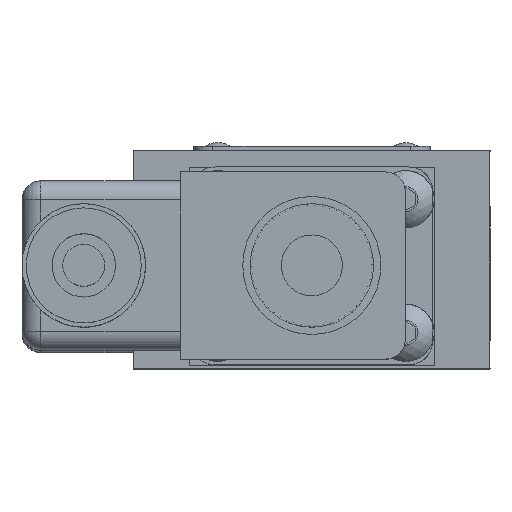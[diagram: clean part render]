
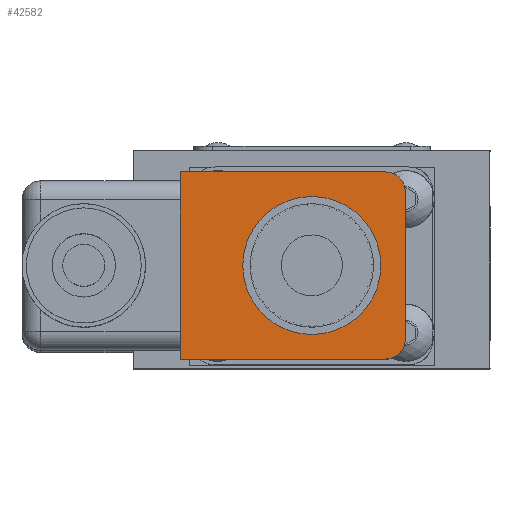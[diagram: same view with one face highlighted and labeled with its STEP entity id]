
A CAD part, top view. The second image highlights one B-rep face of the part: STEP entity #42582.
In plain terms, the highlighted planar face has unit normal (0, 0, 1).
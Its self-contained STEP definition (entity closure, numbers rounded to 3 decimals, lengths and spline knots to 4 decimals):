
#1478=FACE_BOUND('',#5552,.T.);
#1773=PLANE('',#45182);
#3048=FACE_OUTER_BOUND('',#5551,.T.);
#5551=EDGE_LOOP('',(#27256,#27257,#27258,#27259,#27260,#27261));
#5552=EDGE_LOOP('',(#27262));
#8323=LINE('',#61873,#11607);
#8326=LINE('',#61881,#11610);
#8327=LINE('',#61884,#11611);
#8329=LINE('',#61887,#11613);
#11607=VECTOR('',#49786,1.);
#11610=VECTOR('',#49795,1.);
#11611=VECTOR('',#49798,1.);
#11613=VECTOR('',#49802,1.);
#14834=CIRCLE('',#45156,1.1075);
#14845=CIRCLE('',#45176,0.3175);
#14846=CIRCLE('',#45179,0.3175);
#16921=VERTEX_POINT('',#61831);
#16930=VERTEX_POINT('',#61865);
#16931=VERTEX_POINT('',#61867);
#16932=VERTEX_POINT('',#61871);
#16933=VERTEX_POINT('',#61875);
#16934=VERTEX_POINT('',#61879);
#16935=VERTEX_POINT('',#61883);
#20931=EDGE_CURVE('',#16921,#16921,#14834,.T.);
#20948=EDGE_CURVE('',#16930,#16931,#14845,.T.);
#20951=EDGE_CURVE('',#16932,#16930,#8323,.T.);
#20952=EDGE_CURVE('',#16933,#16932,#14846,.T.);
#20955=EDGE_CURVE('',#16933,#16934,#8326,.T.);
#20956=EDGE_CURVE('',#16931,#16935,#8327,.T.);
#20958=EDGE_CURVE('',#16934,#16935,#8329,.T.);
#27256=ORIENTED_EDGE('',*,*,#20948,.F.);
#27257=ORIENTED_EDGE('',*,*,#20951,.F.);
#27258=ORIENTED_EDGE('',*,*,#20952,.F.);
#27259=ORIENTED_EDGE('',*,*,#20955,.T.);
#27260=ORIENTED_EDGE('',*,*,#20958,.T.);
#27261=ORIENTED_EDGE('',*,*,#20956,.F.);
#27262=ORIENTED_EDGE('',*,*,#20931,.T.);
#42582=ADVANCED_FACE('',(#3048,#1478),#1773,.T.);
#45156=AXIS2_PLACEMENT_3D('',#61832,#49734,#49735);
#45176=AXIS2_PLACEMENT_3D('',#61868,#49780,#49781);
#45179=AXIS2_PLACEMENT_3D('',#61876,#49789,#49790);
#45182=AXIS2_PLACEMENT_3D('',#61886,#49800,#49801);
#49734=DIRECTION('center_axis',(0.,0.,
-1.));
#49735=DIRECTION('ref_axis',(1.,0.,0.));
#49780=DIRECTION('center_axis',(0.,0.,
-1.));
#49781=DIRECTION('ref_axis',(0.707,-0.707,0.));
#49786=DIRECTION('',(0.,-1.,0.));
#49789=DIRECTION('center_axis',(0.,0.,
-1.));
#49790=DIRECTION('ref_axis',(0.707,0.707,0.));
#49795=DIRECTION('',(-1.,0.,0.));
#49798=DIRECTION('',(-1.,0.,0.));
#49800=DIRECTION('center_axis',(0.,0.,
1.));
#49801=DIRECTION('ref_axis',(-1.,0.,0.));
#49802=DIRECTION('',(0.,-1.,0.));
#61831=CARTESIAN_POINT('',(-1.1075,0.,12.6388));
#61832=CARTESIAN_POINT('Origin',(0.,0.,
12.6388));
#61865=CARTESIAN_POINT('',(1.4986,-1.1825,12.6388));
#61867=CARTESIAN_POINT('',(1.1811,-1.5,12.6388));
#61868=CARTESIAN_POINT('Origin',(1.1811,-1.1825,12.6388));
#61871=CARTESIAN_POINT('',(1.4986,1.1825,12.6388));
#61873=CARTESIAN_POINT('',(1.4986,1.5,12.6388));
#61875=CARTESIAN_POINT('',(1.1811,1.5,12.6388));
#61876=CARTESIAN_POINT('Origin',(1.1811,1.1825,12.6388));
#61879=CARTESIAN_POINT('',(-2.1082,1.5,12.6388));
#61881=CARTESIAN_POINT('',(1.4986,1.5,12.6388));
#61883=CARTESIAN_POINT('',(-2.1082,-1.5,12.6388));
#61884=CARTESIAN_POINT('',(1.4986,-1.5,12.6388));
#61886=CARTESIAN_POINT('Origin',(1.4986,1.5,12.6388));
#61887=CARTESIAN_POINT('',(-2.1082,1.5,12.6388));
